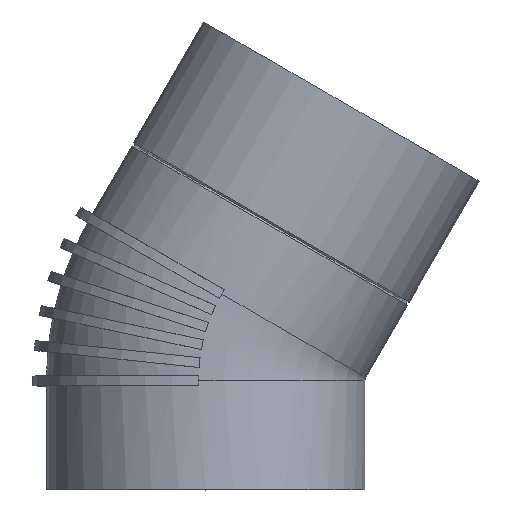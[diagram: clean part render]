
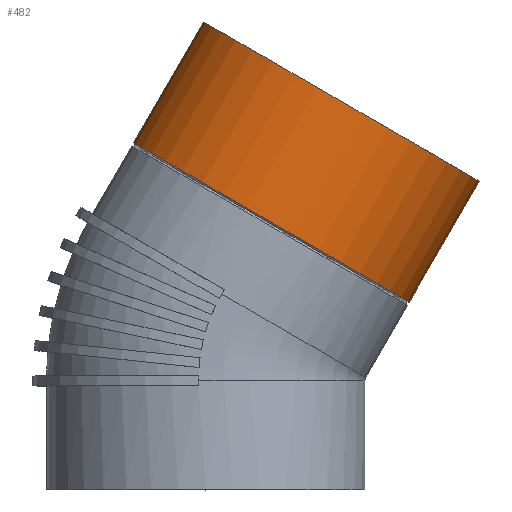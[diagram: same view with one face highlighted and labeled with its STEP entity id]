
A CAD part, top view. The second image highlights one B-rep face of the part: STEP entity #482.
In plain terms, the highlighted cylindrical face has radius 67.5 mm (diameter 135 mm), a full revolution.
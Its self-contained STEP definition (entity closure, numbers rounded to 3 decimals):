
#78=CYLINDRICAL_SURFACE($,#539,67.5);
#94=FACE_BOUND($,#166,.T.);
#122=FACE_OUTER_BOUND($,#165,.T.);
#165=EDGE_LOOP($,(#420));
#166=EDGE_LOOP($,(#421));
#168=CIRCLE($,#488,67.5);
#191=CIRCLE($,#538,67.5);
#193=VERTEX_POINT($,#658);
#238=VERTEX_POINT($,#1489);
#240=EDGE_CURVE($,#193,#193,#168,.T.);
#299=EDGE_CURVE($,#238,#238,#191,.T.);
#420=ORIENTED_EDGE($,*,*,#240,.T.);
#421=ORIENTED_EDGE($,*,*,#299,.T.);
#482=ADVANCED_FACE($,(#122,#94),#78,.T.);
#488=AXIS2_PLACEMENT_3D($,#659,#546,#547);
#538=AXIS2_PLACEMENT_3D($,#1490,#650,#651);
#539=AXIS2_PLACEMENT_3D($,#1491,#652,#653);
#546=DIRECTION('center_axis',(0.5,0.866,0.));
#547=DIRECTION('ref_axis',(0.866,-0.5,0.));
#650=DIRECTION('center_axis',(-0.5,-0.866,0.));
#651=DIRECTION('ref_axis',(0.866,-0.5,0.));
#652=DIRECTION('center_axis',(-0.5,-0.866,0.));
#653=DIRECTION('ref_axis',(0.866,-0.5,0.));
#658=CARTESIAN_POINT('',(86.346,79.556,0.));
#659=CARTESIAN_POINT('Origin',(27.89,113.306,0.));
#1489=CARTESIAN_POINT('',(115.957,130.843,0.));
#1490=CARTESIAN_POINT('Origin',(57.5,164.593,0.));
#1491=CARTESIAN_POINT('Origin',(33.473,122.976,0.));
